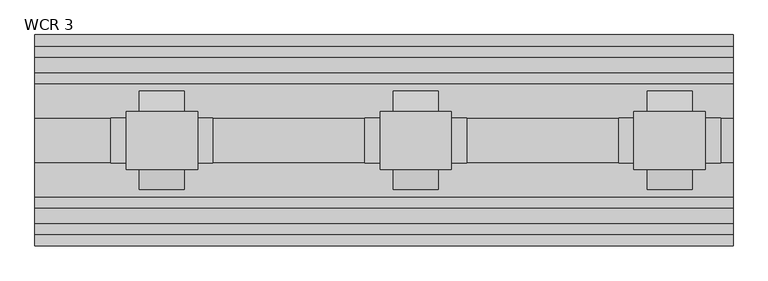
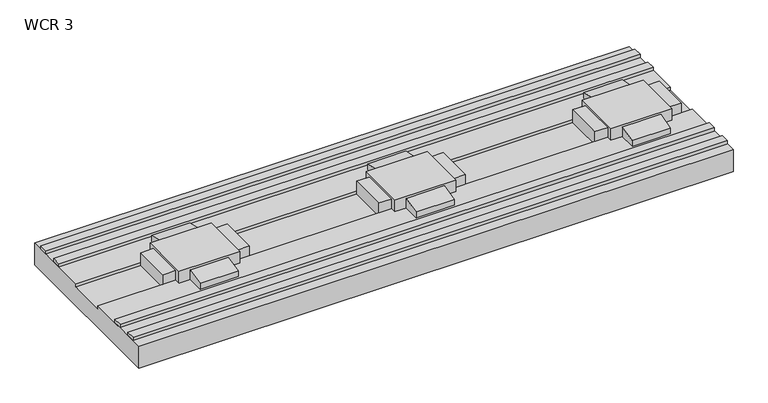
"""IFC4 building model written with IfcOpenShell, lengths in millimetres: proxy geometry, Duct-Walkercell-Wiremold : WCR 3."""

from ifc_helpers import new_model, si_unit, frame, origin, place, context, project, spatial, polyline, outline, extrude, faceted_brep, source, transform, mapped, element, save


def wcr_3_18d52f49(model_context):
    return source(origin(), model_context, "Body", "SolidModel", [
        faceted_brep([(1438.275, 69.85, 25.4), (1438.275, -69.85, 25.4), (1609.725, -69.85, 25.4), (1609.725, 69.85, 25.4), (1401.7625, -53.975, -19.05), (1401.7625, 53.975, -19.05), (1646.2375, 53.975, -19.05), (1646.2375, -53.975, -19.05), (1609.725, 53.975, -9.525), (1438.275, 53.975, -9.525), (1438.275, 69.85, -9.525), (1470.025, 69.85, -9.525), (1470.025, 118.2751, -9.525), (1577.975, 118.2751, -9.525), (1577.975, 69.85, -9.525), (1609.725, 69.85, -9.525), (1609.725, 53.975, 19.05), (1646.2375, 53.975, 19.05), (1401.7625, 53.975, 19.05), (1438.275, 53.975, 19.05), (1438.275, -53.975, -9.525), (1609.725, -53.975, -9.525), (1609.725, -69.85, -9.525), (1577.975, -69.85, -9.525), (1577.975, -118.2751, -9.525), (1470.025, -118.2751, -9.525), (1470.025, -69.85, -9.525), (1438.275, -69.85, -9.525), (1438.275, -53.975, 19.05), (1401.7625, -53.975, 19.05), (1646.2375, -53.975, 19.05), (1609.725, -53.975, 19.05), (1470.025, -69.85, 19.05), (1577.975, -69.85, 19.05), (1577.975, 69.85, 19.05), (1470.025, 69.85, 19.05), (1577.975, 118.2751, 7.9375), (1577.975, -118.2751, 7.9375), (1470.025, 118.2751, 7.9375), (1470.025, -118.2751, 7.9375)], [[[0, 1, 2, 3]], [[4, 5, 6, 7]], [[8, 9, 10, 11, 12, 13, 14, 15]], [[9, 8, 16, 17, 6, 5, 18, 19]], [[20, 21, 22, 23, 24, 25, 26, 27]], [[21, 20, 28, 29, 4, 7, 30, 31]], [[1, 0, 10, 9, 19, 28, 20, 27]], [[2, 1, 27, 26, 32, 33, 23, 22]], [[3, 2, 22, 21, 31, 16, 8, 15]], [[0, 3, 15, 14, 34, 35, 11, 10]], [[31, 30, 17, 16]], [[18, 29, 28, 19]], [[29, 18, 5, 4]], [[17, 30, 7, 6]], [[36, 34, 14, 13]], [[37, 24, 23, 33]], [[38, 12, 11, 35]], [[39, 32, 26, 25]], [[34, 36, 38, 35]], [[36, 13, 12, 38]], [[24, 37, 39, 25]], [[37, 33, 32, 39]]]),
        faceted_brep([(828.675, 69.85, 25.4), (828.675, -69.85, 25.4), (1000.125, -69.85, 25.4), (1000.125, 69.85, 25.4), (792.1625, -53.975, -19.05), (792.1625, 53.975, -19.05), (1036.6375, 53.975, -19.05), (1036.6375, -53.975, -19.05), (1000.125, 53.975, -9.525), (828.675, 53.975, -9.525), (828.675, 69.85, -9.525), (860.425, 69.85, -9.525), (860.425, 118.2751, -9.525), (968.375, 118.2751, -9.525), (968.375, 69.85, -9.525), (1000.125, 69.85, -9.525), (1000.125, 53.975, 19.05), (1036.6375, 53.975, 19.05), (792.1625, 53.975, 19.05), (828.675, 53.975, 19.05), (828.675, -53.975, -9.525), (1000.125, -53.975, -9.525), (1000.125, -69.85, -9.525), (968.375, -69.85, -9.525), (968.375, -118.2751, -9.525), (860.425, -118.2751, -9.525), (860.425, -69.85, -9.525), (828.675, -69.85, -9.525), (828.675, -53.975, 19.05), (792.1625, -53.975, 19.05), (1036.6375, -53.975, 19.05), (1000.125, -53.975, 19.05), (860.425, -69.85, 19.05), (968.375, -69.85, 19.05), (968.375, 69.85, 19.05), (860.425, 69.85, 19.05), (968.375, 118.2751, 7.9375), (968.375, -118.2751, 7.9375), (860.425, 118.2751, 7.9375), (860.425, -118.2751, 7.9375)], [[[0, 1, 2, 3]], [[4, 5, 6, 7]], [[8, 9, 10, 11, 12, 13, 14, 15]], [[9, 8, 16, 17, 6, 5, 18, 19]], [[20, 21, 22, 23, 24, 25, 26, 27]], [[21, 20, 28, 29, 4, 7, 30, 31]], [[1, 0, 10, 9, 19, 28, 20, 27]], [[2, 1, 27, 26, 32, 33, 23, 22]], [[3, 2, 22, 21, 31, 16, 8, 15]], [[0, 3, 15, 14, 34, 35, 11, 10]], [[31, 30, 17, 16]], [[18, 29, 28, 19]], [[29, 18, 5, 4]], [[17, 30, 7, 6]], [[36, 34, 14, 13]], [[37, 24, 23, 33]], [[38, 12, 11, 35]], [[39, 32, 26, 25]], [[34, 36, 38, 35]], [[36, 13, 12, 38]], [[24, 37, 39, 25]], [[37, 33, 32, 39]]]),
        faceted_brep([(219.075, 69.85, 25.4), (219.075, -69.85, 25.4), (390.525, -69.85, 25.4), (390.525, 69.85, 25.4), (182.5625, -53.975, -19.05), (182.5625, 53.975, -19.05), (427.0375, 53.975, -19.05), (427.0375, -53.975, -19.05), (390.525, 53.975, -9.525), (219.075, 53.975, -9.525), (219.075, 69.85, -9.525), (250.825, 69.85, -9.525), (250.825, 118.2751, -9.525), (358.775, 118.2751, -9.525), (358.775, 69.85, -9.525), (390.525, 69.85, -9.525), (390.525, 53.975, 19.05), (427.0375, 53.975, 19.05), (182.5625, 53.975, 19.05), (219.075, 53.975, 19.05), (219.075, -53.975, -9.525), (390.525, -53.975, -9.525), (390.525, -69.85, -9.525), (358.775, -69.85, -9.525), (358.775, -118.2751, -9.525), (250.825, -118.2751, -9.525), (250.825, -69.85, -9.525), (219.075, -69.85, -9.525), (219.075, -53.975, 19.05), (182.5625, -53.975, 19.05), (427.0375, -53.975, 19.05), (390.525, -53.975, 19.05), (250.825, -69.85, 19.05), (358.775, -69.85, 19.05), (358.775, 69.85, 19.05), (250.825, 69.85, 19.05), (358.775, 118.2751, 7.9375), (358.775, -118.2751, 7.9375), (250.825, 118.2751, 7.9375), (250.825, -118.2751, 7.9375)], [[[0, 1, 2, 3]], [[4, 5, 6, 7]], [[8, 9, 10, 11, 12, 13, 14, 15]], [[9, 8, 16, 17, 6, 5, 18, 19]], [[20, 21, 22, 23, 24, 25, 26, 27]], [[21, 20, 28, 29, 4, 7, 30, 31]], [[1, 0, 10, 9, 19, 28, 20, 27]], [[2, 1, 27, 26, 32, 33, 23, 22]], [[3, 2, 22, 21, 31, 16, 8, 15]], [[0, 3, 15, 14, 34, 35, 11, 10]], [[31, 30, 17, 16]], [[18, 29, 28, 19]], [[29, 18, 5, 4]], [[17, 30, 7, 6]], [[36, 34, 14, 13]], [[37, 24, 23, 33]], [[38, 12, 11, 35]], [[39, 32, 26, 25]], [[34, 36, 38, 35]], [[36, 13, 12, 38]], [[24, 37, 39, 25]], [[37, 33, 32, 39]]]),
        extrude(outline(polyline([(1676.4, -200.025), (1676.4, -225.425), (0.0, -225.425), (0.0, -200.025), (1676.4, -200.025)])), frame((0.0, 0.0, -9.525), z_axis=(0.0, 0.0, 1.0), x_axis=(1.0, 0.0, 0.0)), (0.0, 0.0, 1.0), 9.525),
        extrude(outline(polyline([(1676.4, -136.525), (1676.4, -161.925), (0.0, -161.925), (0.0, -136.525), (1676.4, -136.525)])), frame((0.0, 0.0, -9.525), z_axis=(0.0, 0.0, 1.0), x_axis=(1.0, 0.0, 0.0)), (0.0, 0.0, 1.0), 9.525),
        extrude(outline(polyline([(1676.4, 225.425), (1676.4, 200.025), (0.0, 200.025), (0.0, 225.425), (1676.4, 225.425)])), frame((0.0, 0.0, -9.525), z_axis=(0.0, 0.0, 1.0), x_axis=(1.0, 0.0, 0.0)), (0.0, 0.0, 1.0), 9.525),
        extrude(outline(polyline([(1676.4, 161.925), (1676.4, 136.525), (0.0, 136.525), (0.0, 161.925), (1676.4, 161.925)])), frame((0.0, 0.0, -9.525), z_axis=(0.0, 0.0, 1.0), x_axis=(1.0, 0.0, 0.0)), (0.0, 0.0, 1.0), 9.525),
        extrude(outline(polyline([(-53.975, -9.525), (-53.975, -19.05), (53.975, -19.05), (53.975, -9.525), (254.0, -9.525), (254.0, -74.6252), (-254.0, -74.6252), (-254.0, -9.525), (-53.975, -9.525)])), frame((0.0, 0.0, 0.0), z_axis=(1.0, 0.0, 0.0), x_axis=(0.0, 1.0, 0.0)), (0.0, 0.0, 1.0), 1676.4),
    ])


if __name__ == "__main__":
    model = new_model("IFC4")
    model_context = context("Model", 3, world=origin())
    ifc_project = project(units=[si_unit("LENGTHUNIT", "METRE", prefix="MILLI")], contexts=[model_context])
    site = spatial("IfcSite", under=ifc_project)
    building = spatial("IfcBuilding", under=site)
    placement = place(None, origin())
    wcr_3_shape = wcr_3_18d52f49(model_context)
    element("IfcBuildingElementProxy", 1, Name="Duct-Walkercell-Wiremold : WCR 3", ObjectType="Duct-Walkercell-Wiremold : WCR 3", at=placement, inside=building, context=model_context, shape_type="MappedRepresentation", body=[
        mapped(wcr_3_shape, transform((0.0, 0.0, 0.0), x_axis=(1.0, 0.0, 0.0), y_axis=(0.0, 1.0, 0.0), z_axis=(0.0, 0.0, 1.0))),
    ])
    save(model, "model.ifc")
